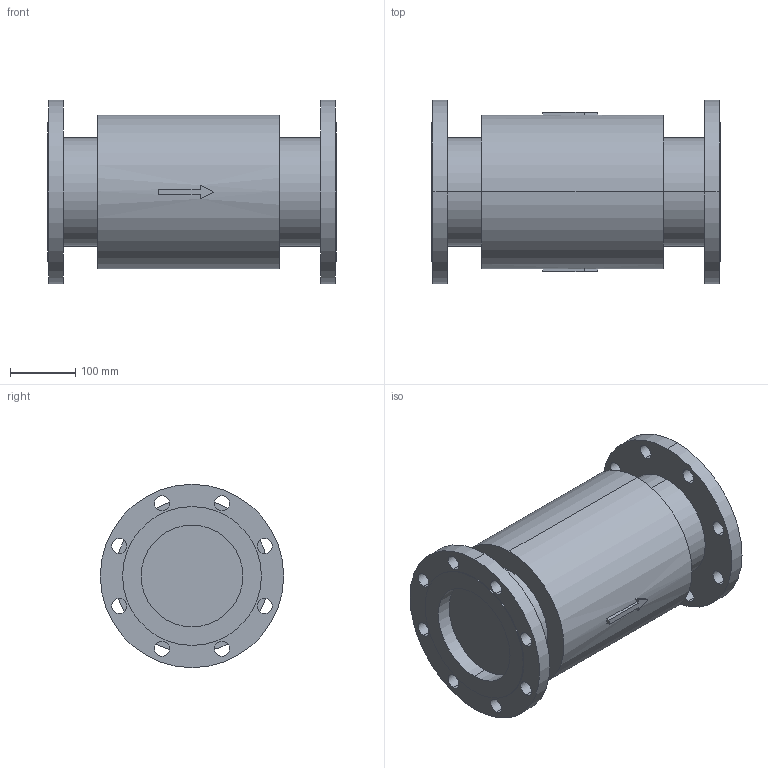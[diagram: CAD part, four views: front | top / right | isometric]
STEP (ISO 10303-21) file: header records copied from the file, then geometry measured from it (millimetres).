
FILE_DESCRIPTION( (''), '2;1');
FILE_NAME ('PC1027.10420.EB-1J　150A_19580.stp','2025-07-29T12:56:30',(''),(''),'spGate 20.6.3 (****-****-****-****)','','');
FILE_SCHEMA (('AUTOMOTIVE_DESIGN'));
Length unit declared in the file: millimetre
Bounding box: 440 x 280 x 280 mm (x, y, z)
Volume: 16291058 mm3; surface area: 589634.2 mm2
Topology: 1 solids, 1 shells, 76 faces, 194 edges, 130 vertices
Faces by surface type: cylinder 50, plane 26
Entity records: 3917 total; most frequent: CARTESIAN_POINT 458, DIRECTION 400, ORIENTED_EDGE 388, COLOUR_RGB 271, PRESENTATION_STYLE_ASSIGNMENT 271, STYLED_ITEM 271, EDGE_CURVE 194, DRAUGHTING_PRE_DEFINED_CURVE_FONT 194
